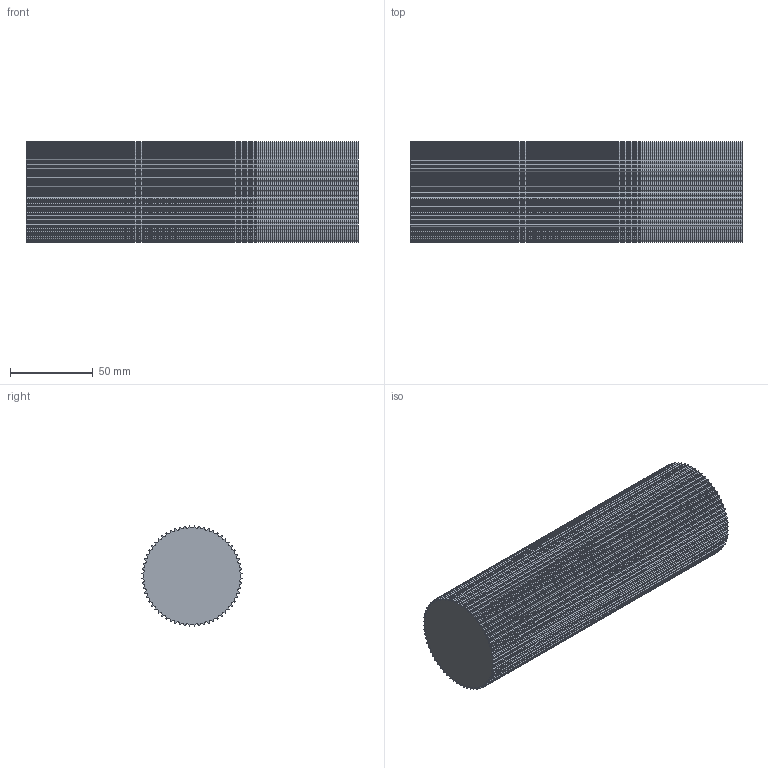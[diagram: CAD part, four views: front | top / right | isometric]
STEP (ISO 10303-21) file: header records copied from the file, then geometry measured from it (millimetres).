
FILE_DESCRIPTION( ( 'STEP AP214' ), '1' );
FILE_NAME( 'C:/Users/StangenbergN/Documents/CAD_Step/1/17096400.stp', '2019-08-23T07:12:03', ( '' ), ( '' ), ' ', 'PARTsolutions', ' ' );
FILE_SCHEMA( ( 'AUTOMOTIVE_DESIGN { 1 0 10303 214 1 1 1 1 }' ) );
Length unit declared in the file: millimetre
Products named in the file (1): _17096400
Bounding box: 200 x 60.28 x 60.28 mm (x, y, z)
Volume: 544590.6 mm3; surface area: 57397.5 mm2
Topology: 1 solids, 1 shells, 514 faces, 1536 edges, 1024 vertices
Faces by surface type: cylinder 320, plane 194
Entity records: 21688 total; most frequent: DIRECTION 3206, CARTESIAN_POINT 3075, ORIENTED_EDGE 3072, EDGE_CURVE 1536, AXIS2_PLACEMENT_3D 1155, VERTEX_POINT 1024, LINE 896, VECTOR 896
